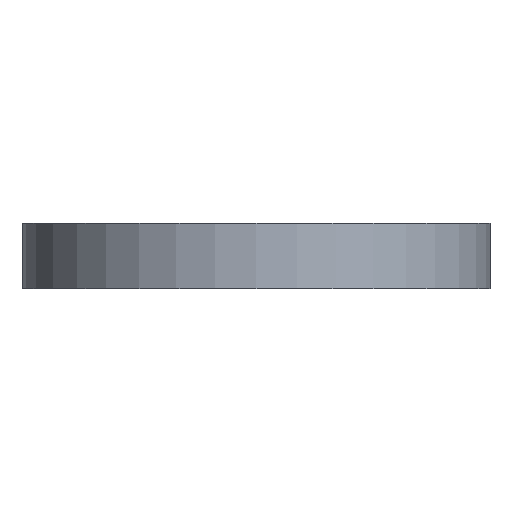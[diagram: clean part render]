
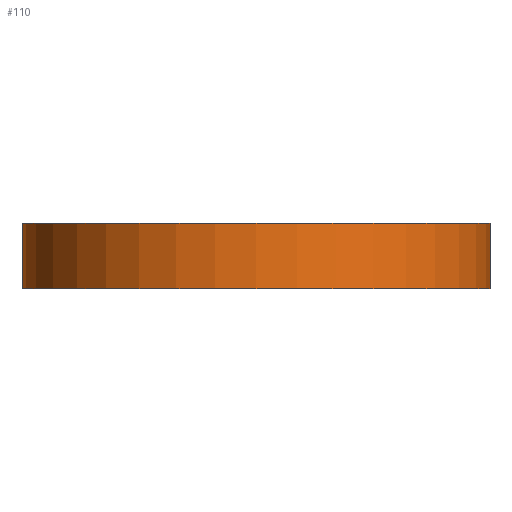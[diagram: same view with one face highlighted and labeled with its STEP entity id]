
A CAD part, front view. The second image highlights one B-rep face of the part: STEP entity #110.
In plain terms, the highlighted cylindrical face has radius 2.5 mm (diameter 5 mm), a full revolution.
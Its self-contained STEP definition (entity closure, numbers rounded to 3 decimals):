
#26=FACE_OUTER_BOUND('',#34,.T.);
#34=EDGE_LOOP('',(#85,#86,#87,#88));
#46=LINE('',#197,#50);
#50=VECTOR('',#161,2.5);
#55=CIRCLE('',#136,2.5);
#56=CIRCLE('',#137,2.5);
#63=VERTEX_POINT('',#194);
#64=VERTEX_POINT('',#196);
#72=EDGE_CURVE('',#63,#63,#55,.T.);
#73=EDGE_CURVE('',#63,#64,#46,.T.);
#74=EDGE_CURVE('',#64,#64,#56,.T.);
#85=ORIENTED_EDGE('',*,*,#72,.F.);
#86=ORIENTED_EDGE('',*,*,#73,.T.);
#87=ORIENTED_EDGE('',*,*,#74,.T.);
#88=ORIENTED_EDGE('',*,*,#73,.F.);
#106=CYLINDRICAL_SURFACE('',#135,2.5);
#110=ADVANCED_FACE('',(#26),#106,.T.);
#135=AXIS2_PLACEMENT_3D('',#193,#157,#158);
#136=AXIS2_PLACEMENT_3D('',#195,#159,#160);
#137=AXIS2_PLACEMENT_3D('',#198,#162,#163);
#157=DIRECTION('center_axis',(0.,0.,1.));
#158=DIRECTION('ref_axis',(1.,0.,0.));
#159=DIRECTION('center_axis',(0.,0.,1.));
#160=DIRECTION('ref_axis',(1.,0.,0.));
#161=DIRECTION('',(0.,0.,-1.));
#162=DIRECTION('center_axis',(0.,0.,1.));
#163=DIRECTION('ref_axis',(1.,0.,0.));
#193=CARTESIAN_POINT('Origin',(36.,82.85,13.6));
#194=CARTESIAN_POINT('',(33.5,82.85,14.3));
#195=CARTESIAN_POINT('Origin',(36.,82.85,14.3));
#196=CARTESIAN_POINT('',(33.5,82.85,13.6));
#197=CARTESIAN_POINT('',(33.5,82.85,13.6));
#198=CARTESIAN_POINT('Origin',(36.,82.85,13.6));
